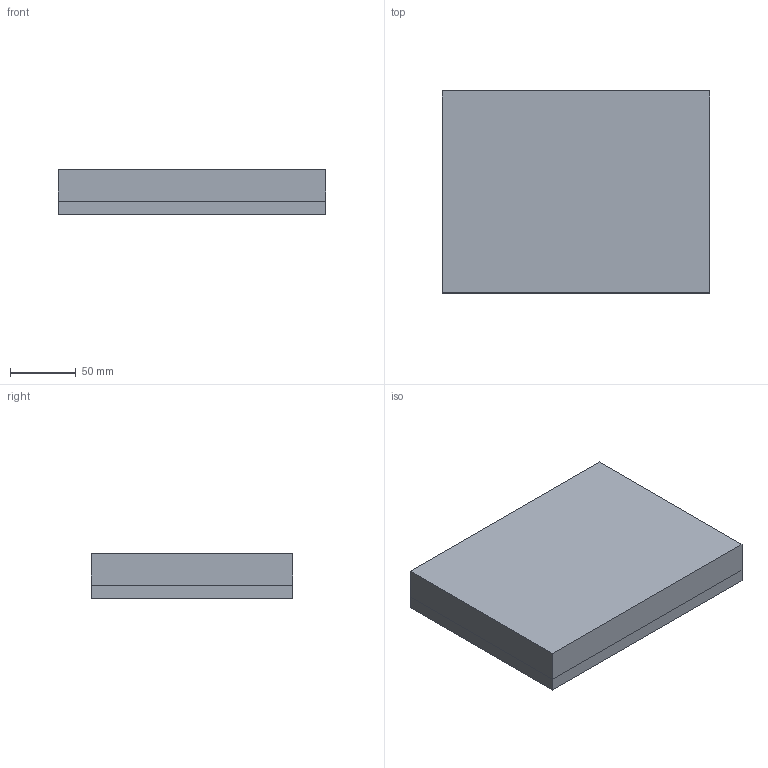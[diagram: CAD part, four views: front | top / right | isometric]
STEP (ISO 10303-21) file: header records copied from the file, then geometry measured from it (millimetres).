
FILE_DESCRIPTION(('CATIA V5 STEP Exchange'),'2;1');
FILE_NAME('C:\_Andres\UNIVERSIDAD\IQS\ASIGNATURAS\DAO\Controles\1920\c2\c2-Blancafort_Lloret_Marina.stp','2020-02-10T15:37:47+00:00',('none'),('none'),'CATIA Version 5 Release 19 SP 3 (IN-10)','CATIA V5 STEP AP203','none');
FILE_SCHEMA(('CONFIG_CONTROL_DESIGN'));
Length unit declared in the file: millimetre
Products named in the file (1): c2-Blancafort_Lloret_Marina
Bounding box: 204 x 154 x 34 mm (x, y, z)
Surface area: 214206.3 mm2
Topology: 3 solids, 3 shells, 103 faces, 232 edges, 128 vertices
Faces by surface type: cylinder 40, plane 27, bspline 24, sphere 12
Entity records: 3348 total; most frequent: CARTESIAN_POINT 1636, ORIENTED_EDGE 440, DIRECTION 224, EDGE_CURVE 164, EDGE_LOOP 110, ADVANCED_FACE 103, FACE_OUTER_BOUND 103, AXIS2_PLACEMENT_3D 96
